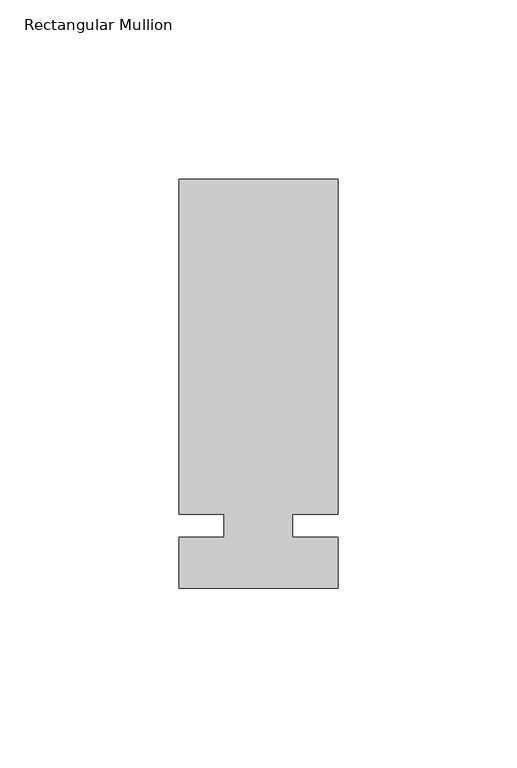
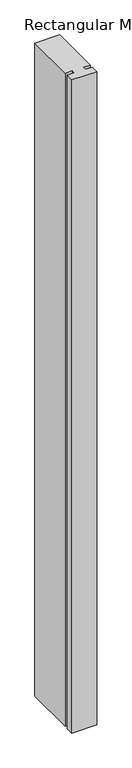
"""IFC4 building model written with IfcOpenShell, lengths in millimetres: member geometry, Rectangular Mullion : Kawneer-TRIFAB_VG_450_BACK_SB_Horizontal."""

from ifc_helpers import new_model, si_unit, frame, origin, place, context, project, spatial, polyline, outline, extrude, source, transform, mapped, element, save


def rectangular_mullion_0e282d8c(model_context):
    return source(origin(), model_context, "Body", "SweptSolid", [
        extrude(outline(polyline([(26.5594027, -17.4625), (-17.8905973, -17.4625), (-17.8905973, -3.2050658), (-5.1905973, -3.2050658), (-5.1905973, 3.1449342), (-17.8905973, 3.1449342), (-17.8905973, 96.8375), (26.5594027, 96.8375), (26.5594027, 3.1449342), (13.8576322, 3.1449342), (13.8576322, -3.2050658), (26.5594027, -3.2050658), (26.5594027, -17.4625)])), frame((0.0, 0.0, -1231.9), z_axis=(0.0, 0.0, 1.0), x_axis=(1.0, 0.0, 0.0)), (0.0, 0.0, 1.0), 1231.9),
    ])


if __name__ == "__main__":
    model = new_model("IFC4")
    model_context = context("Model", 3, world=origin())
    ifc_project = project(units=[si_unit("LENGTHUNIT", "METRE", prefix="MILLI")], contexts=[model_context])
    site = spatial("IfcSite", under=ifc_project)
    building = spatial("IfcBuilding", under=site)
    placement = place(None, origin())
    rectangular_mullion_shape = rectangular_mullion_0e282d8c(model_context)
    element("IfcMember", 1, ObjectType="Rectangular Mullion : Kawneer-TRIFAB_VG_450_BACK_SB_Horizontal", at=placement, inside=building, context=model_context, shape_type="MappedRepresentation", body=[
        mapped(rectangular_mullion_shape, transform((0.0, 0.0, 0.0), x_axis=(1.0, 0.0, 0.0), y_axis=(0.0, 1.0, 0.0), z_axis=(0.0, 0.0, 1.0))),
    ])
    save(model, "model.ifc")
